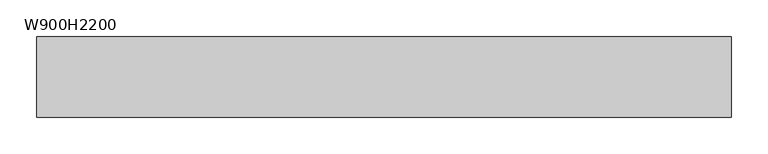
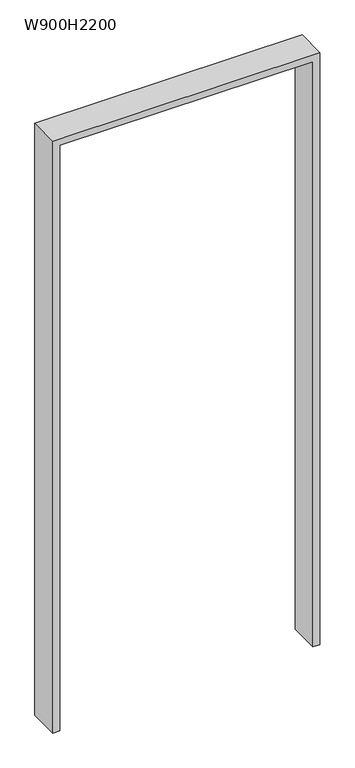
"""IFC4 building model written with IfcOpenShell, lengths in millimetres: proxy geometry, 開口枠 - 鋼製 1 : W900H2200."""

import ifcopenshell
import ifcopenshell.guid

model = None  # the IFC model being written
_history = None  # IfcOwnerHistory: only IFC2X3 demands one
_inside = {}  # id of a spatial element -> (the spatial element, [elements in it])
_under = {}  # id of a project, library or spatial element -> (it, [spatial elements below it])
_declared = {}  # id of a project -> (the project, [libraries it declares])
_typed = {}  # id of a type object -> (the type object, [elements of that type])
_made_of = {}  # id of a material, layer set ... -> (it, [elements and type objects made of it])


def new_model(schema):
    """Start an empty IFC model of exactly this schema.

    Asked for "IFC4X3", IfcOpenShell would pick the latest addendum, in which some entities
    have other attributes; the version numbers below select the first issue.
    IFC2X3 requires an IfcOwnerHistory on every rooted entity: one is made here for all.
    """
    global model, _history
    if schema == "IFC4X3":
        model = ifcopenshell.file(schema_version=(4, 3, 0, 0))
    else:
        model = ifcopenshell.file(schema=schema)
    _inside.clear()
    _under.clear()
    _declared.clear()
    _typed.clear()
    _made_of.clear()
    _history = None
    if model.schema == "IFC2X3":
        org = make("IfcOrganization", Name="unknown")
        user = make(
            "IfcPersonAndOrganization",
            ThePerson=make("IfcPerson", FamilyName="unknown"),
            TheOrganization=org,
        )
        app = make(
            "IfcApplication",
            ApplicationDeveloper=org,
            Version="unknown",
            ApplicationFullName="unknown",
            ApplicationIdentifier="unknown",
        )
        _history = make(
            "IfcOwnerHistory",
            OwningUser=user,
            OwningApplication=app,
            ChangeAction="ADDED",
            CreationDate=0,
        )
    return model


def make(cls, **values):
    """One entity of the class cls with the attributes given. An attribute that is None is left unset."""
    return model.create_entity(
        cls, **{name: value for name, value in values.items() if value is not None}
    )


def rooted(cls, **values):
    """An entity with a GlobalId (a new one), such as an element, a storey or a relation."""
    return make(cls, GlobalId=ifcopenshell.guid.new(), OwnerHistory=_history, **values)


def si_unit(unit_type, name, prefix=None):
    """IfcSIUnit, for example si_unit("LENGTHUNIT", "METRE", prefix="MILLI")."""
    return make("IfcSIUnit", UnitType=unit_type, Prefix=prefix, Name=name)


def assignment(units):
    """IfcUnitAssignment: the units of a project."""
    return None if units is None else make("IfcUnitAssignment", Units=units)


def point(xyz):
    """IfcCartesianPoint."""
    return None if xyz is None else make("IfcCartesianPoint", Coordinates=xyz)


def direction(xyz):
    """IfcDirection."""
    return None if xyz is None else make("IfcDirection", DirectionRatios=xyz)


def frame(location, z_axis=None, x_axis=None):
    """IfcAxis2Placement3D, a coordinate frame: its origin and axes. An axis left out is left unset."""
    return make(
        "IfcAxis2Placement3D",
        Location=point(location),
        Axis=direction(z_axis),
        RefDirection=direction(x_axis),
    )


def origin():
    """The frame at (0, 0, 0) with its axes left unset."""
    return frame((0.0, 0.0, 0.0))


def place(relative_to, where):
    """IfcLocalPlacement: puts the frame where relative to a parent placement (None: the world)."""
    return make(
        "IfcLocalPlacement", PlacementRelTo=relative_to, RelativePlacement=where
    )


def context(
    kind, dimensions, precision=None, world=None, true_north=None, identifier=None
):
    """IfcGeometricRepresentationContext, for example the 3D "Model" context."""
    return make(
        "IfcGeometricRepresentationContext",
        ContextIdentifier=identifier,
        ContextType=kind,
        CoordinateSpaceDimension=dimensions,
        Precision=precision,
        WorldCoordinateSystem=world,
        TrueNorth=true_north,
    )


def project(units=None, contexts=None):
    """IfcProject with its units and contexts."""
    return rooted(
        "IfcProject",
        Name="project",
        RepresentationContexts=contexts,
        UnitsInContext=assignment(units),
    )


def spatial(cls, under=None, at=None, **own):
    """A site, building, storey or space (cls), placed at a placement, below another one or the project."""
    s = rooted(cls, ObjectPlacement=at, **own)
    if under is not None:
        _under.setdefault(under.id(), (under, []))[1].append(s)
    return s


def polyline(points):
    """IfcPolyline through the points."""
    return make("IfcPolyline", Points=[point(p) for p in points])


def outline(outer, holes=None, kind="AREA"):
    """IfcArbitraryClosedProfileDef: a profile drawn as a closed curve; with holes, ...WithVoids."""
    if holes is None:
        return make("IfcArbitraryClosedProfileDef", ProfileType=kind, OuterCurve=outer)
    return make(
        "IfcArbitraryProfileDefWithVoids",
        ProfileType=kind,
        OuterCurve=outer,
        InnerCurves=holes,
    )


def extrude(swept, where, along, depth):
    """IfcExtrudedAreaSolid: the profile swept, set in the frame where, extruded along a direction by depth."""
    return make(
        "IfcExtrudedAreaSolid",
        SweptArea=swept,
        Position=where,
        ExtrudedDirection=direction(along),
        Depth=depth,
    )


def shape(context_of_items, identifier, shape_type, items):
    """IfcShapeRepresentation: the items that make up one representation, for example the "Body"."""
    return make(
        "IfcShapeRepresentation",
        ContextOfItems=context_of_items,
        RepresentationIdentifier=identifier,
        RepresentationType=shape_type,
        Items=items,
    )


def source(mapping_origin, context_of_items, identifier, shape_type, items):
    """IfcRepresentationMap: a shape defined once, which mapped items show again and again."""
    return make(
        "IfcRepresentationMap",
        MappingOrigin=mapping_origin,
        MappedRepresentation=shape(context_of_items, identifier, shape_type, items),
    )


def transform(
    local_origin,
    x_axis=None,
    y_axis=None,
    z_axis=None,
    scale=None,
    scale2=None,
    scale3=None,
    uniform=True,
):
    """IfcCartesianTransformationOperator3D, or its non-uniform kind. x_axis, y_axis, z_axis: its Axis1, 2, 3."""
    if uniform:
        return make(
            "IfcCartesianTransformationOperator3D",
            Axis1=direction(x_axis),
            Axis2=direction(y_axis),
            LocalOrigin=point(local_origin),
            Scale=scale,
            Axis3=direction(z_axis),
        )
    return make(
        "IfcCartesianTransformationOperator3DnonUniform",
        Axis1=direction(x_axis),
        Axis2=direction(y_axis),
        LocalOrigin=point(local_origin),
        Scale=scale,
        Axis3=direction(z_axis),
        Scale2=scale2,
        Scale3=scale3,
    )


def mapped(mapping_source, mapping_target):
    """IfcMappedItem: shows the shape of a source again, moved by a transform."""
    return make(
        "IfcMappedItem", MappingSource=mapping_source, MappingTarget=mapping_target
    )


def made_of(thing, what):
    """Note that an element or type object is made of a material, layer set ...; save() writes the relation."""
    if what is not None:
        _made_of.setdefault(what.id(), (what, []))[1].append(thing)
    return thing


def element(
    cls,
    number,
    at=None,
    inside=None,
    cuts=None,
    type_object=None,
    material=None,
    context=None,
    identifier="Body",
    shape_type=None,
    held_by="IfcProductDefinitionShape",
    body=None,
    shapes=None,
    **own,
):
    """One element of the class cls, such as IfcWall. Its Tag is "e" and its number.

    at: its placement. inside: the storey or other place that contains it. cuts: it is an
    opening in that element (IfcRelVoidsElement). A single representation is given by context,
    identifier, shape_type and body (its items); several are given by shapes. held_by: the class
    of the entity that holds the representations. save() writes the other relations.
    """
    e = rooted(cls, Tag="e%d" % number, ObjectPlacement=at, **own)
    if body is not None:
        shapes = [shape(context, identifier, shape_type, body)]
    if shapes is not None:
        e.Representation = make(held_by, Representations=shapes)
    if inside is not None:
        _inside.setdefault(inside.id(), (inside, []))[1].append(e)
    if cuts is not None:
        rooted(
            "IfcRelVoidsElement", RelatingBuildingElement=cuts, RelatedOpeningElement=e
        )
    if type_object is not None:
        _typed.setdefault(type_object.id(), (type_object, []))[1].append(e)
    return made_of(e, material)


def aggregate(whole, parts):
    """IfcRelAggregates: a whole, such as a stair, and the parts it consists of."""
    return rooted("IfcRelAggregates", RelatingObject=whole, RelatedObjects=parts)


def save(model, path):
    """Write the relations noted so far, then the file.

    IfcRelAggregates (storeys below a building ...), IfcRelContainedInSpatialStructure (elements
    in a storey), IfcRelDefinesByType, IfcRelAssociatesMaterial and IfcRelDeclares: one each for
    every whole, place, type object, material and project.
    """
    for whole, parts in _under.values():
        aggregate(whole, parts)
    for where, things in _inside.values():
        rooted(
            "IfcRelContainedInSpatialStructure",
            RelatedElements=things,
            RelatingStructure=where,
        )
    for kind, things in _typed.values():
        rooted("IfcRelDefinesByType", RelatedObjects=things, RelatingType=kind)
    for what, things in _made_of.values():
        rooted("IfcRelAssociatesMaterial", RelatedObjects=things, RelatingMaterial=what)
    for by, libraries in _declared.values():
        rooted("IfcRelDeclares", RelatingContext=by, RelatedDefinitions=libraries)
    model.write(path)


def w900h2200_d33cf105(model_context):
    return source(origin(), model_context, "Body", "SweptSolid", [
        extrude(outline(polyline([(0.0, -350.0), (0.0, -325.0), (2200.0, -325.0), (2200.0, 575.0), (0.0, 575.0), (0.0, 600.0), (2225.0, 600.0), (2225.0, -350.0), (0.0, -350.0)])), frame((0.0, -55.0, 0.0), z_axis=(0.0, 1.0, 0.0), x_axis=(0.0, 0.0, 1.0)), (0.0, 0.0, 1.0), 110.0),
    ])


if __name__ == "__main__":
    model = new_model("IFC4")
    model_context = context("Model", 3, world=origin())
    ifc_project = project(units=[si_unit("LENGTHUNIT", "METRE", prefix="MILLI")], contexts=[model_context])
    site = spatial("IfcSite", under=ifc_project)
    building = spatial("IfcBuilding", under=site)
    placement = place(None, origin())
    w900h2200_shape = w900h2200_d33cf105(model_context)
    element("IfcBuildingElementProxy", 1, Name="開口枠 - 鋼製 1 : W900H2200", ObjectType="開口枠 - 鋼製 1 : W900H2200", at=placement, inside=building, context=model_context, shape_type="MappedRepresentation", body=[
        mapped(w900h2200_shape, transform((0.0, 0.0, 0.0), x_axis=(1.0, 0.0, 0.0), y_axis=(0.0, 1.0, 0.0), z_axis=(0.0, 0.0, 1.0))),
    ])
    save(model, "model.ifc")
